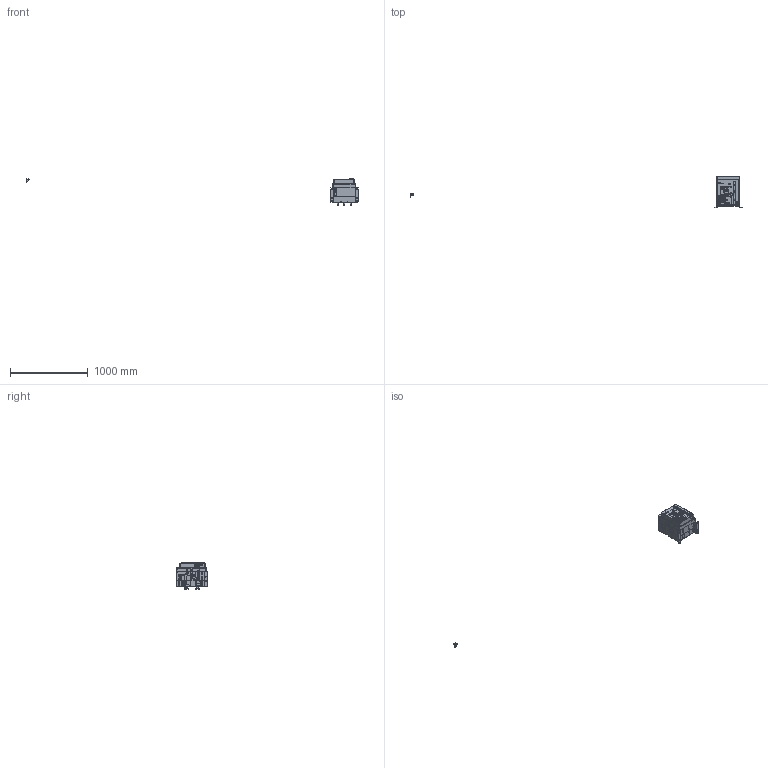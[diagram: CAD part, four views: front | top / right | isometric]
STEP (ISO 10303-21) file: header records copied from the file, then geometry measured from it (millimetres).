
FILE_DESCRIPTION((''),'2;1');
FILE_NAME('HG_02_A163V_FIX_ASM_ASM_ASM','2019-03-29T',('HHI'),(''),'PRO/ENGINEER BY PARAMETRIC TECHNOLOGY CORPORATION, 2012453','PRO/ENGINEER BY PARAMETRIC TECHNOLOGY CORPORATION, 2012453','');
FILE_SCHEMA(('CONFIG_CONTROL_DESIGN'));
Products named in the file (26): PRT0261; PRT0262; PRT0263; PRT0264; PRT0265; PRT0266; PRT0267; ASM0005_ASM_ASM; PRT0268; PRT0269; PRT0270; ASM0006_ASM_ASM; PRT0271; PRT0272; ASM0004_ASM_ASM; PRT0273; PRT0274; ASM0003_ASM_ASM; PRT0275; A163V_FIX_ASM_1_ASM_ASM; 4AT-06477S04_7; ASM0070_ASM; HG_FRONT_COVER_20; 4AT-06477S03; 4AT-06477S04; HG_02_A163V_FIX_ASM_ASM_ASM
Assembly tree (32 placements, depth 7):
  HG_02_A163V_FIX_ASM_ASM_ASM
    ASM0070_ASM
      A163V_FIX_ASM_1_ASM_ASM
        ASM0003_ASM_ASM
          PRT0261
          PRT0262
          PRT0263  x3
          ASM0004_ASM_ASM
            ASM0005_ASM_ASM
              PRT0264
              PRT0265
              PRT0266
              PRT0267
            ASM0006_ASM_ASM
              PRT0268
              PRT0269
              PRT0270
            PRT0271
            PRT0272
          PRT0273
          PRT0274
        PRT0275  x6
      4AT-06477S04_7
    HG_FRONT_COVER_20
    4AT-06477S03
    4AT-06477S04
Bounding box: 4283.34 x 404.4 x 346.23 mm (x, y, z)
Volume: 6424593 mm3; surface area: 2389154.7 mm2
Topology: 26 solids, 49 shells, 7183 faces, 20142 edges, 13232 vertices
Faces by surface type: plane 4437, cylinder 1988, torus 258, extrusion 241, cone 106, sphere 85, bspline 68
Entity records: 231003 total; most frequent: CARTESIAN_POINT 48392, ORIENTED_EDGE 38824, DIRECTION 36590, EDGE_CURVE 19555, VECTOR 14234, LINE 13993, VERTEX_POINT 12856, AXIS2_PLACEMENT_3D 11178
